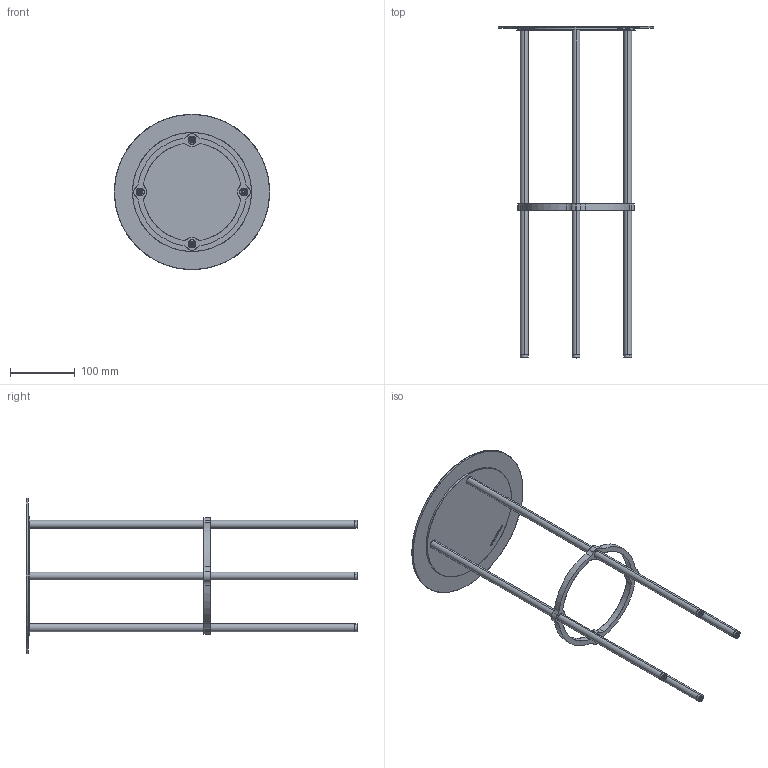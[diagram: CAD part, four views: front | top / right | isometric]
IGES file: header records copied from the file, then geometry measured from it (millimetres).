
Start section: SolidWorks IGES file using analytic representation for surfaces
Global section: file name: \\utenti\Dati Utenti\Tecnico\DC\2D - 3D per sito\3D\DeCastelli-3D-Scribble Dot.igs; native system: SolidWorks 2022; preprocessor: SolidWorks 2022; author: Simonep; date: 240729.120753; units: millimetre
Bounding box: 240 x 513.05 x 240 mm (x, y, z)
Surface area: 216835.7 mm2 (no closed solid volume)
Topology: 0 solids, 0 shells, 122 faces, 1826 edges, 1818 vertices
Faces by surface type: bspline 63, revolution 59
